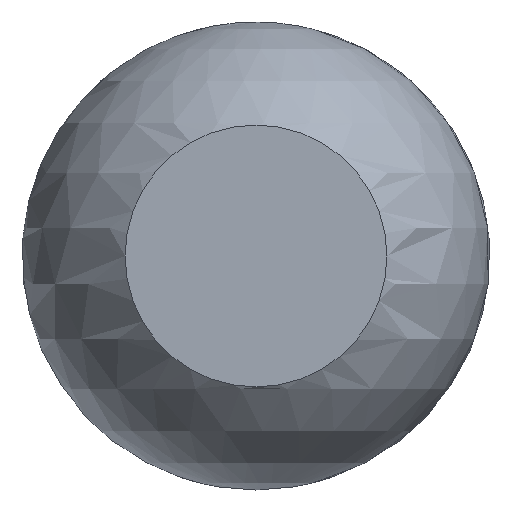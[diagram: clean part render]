
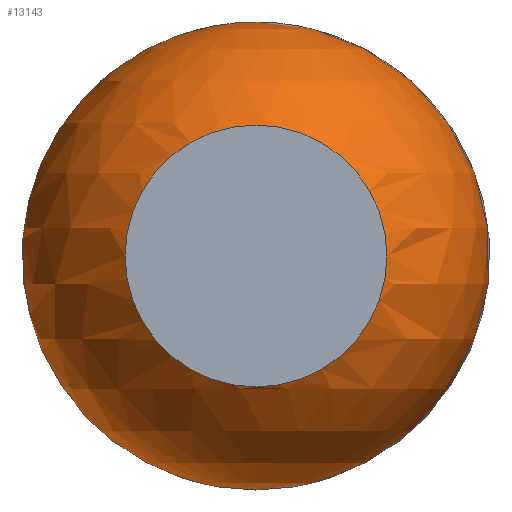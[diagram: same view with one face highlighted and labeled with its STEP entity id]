
A CAD part, left-side view. The second image highlights one B-rep face of the part: STEP entity #13143.
In plain terms, the highlighted spherical face has radius 18.326 mm.
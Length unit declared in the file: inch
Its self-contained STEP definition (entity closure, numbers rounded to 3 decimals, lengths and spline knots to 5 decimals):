
#3122=SPHERICAL_SURFACE('',#13954,0.7215);
#3537=FACE_BOUND('',#4408,.T.);
#3538=FACE_BOUND('',#4409,.T.);
#4408=EDGE_LOOP('',(#9053));
#4409=EDGE_LOOP('',(#9054));
#5271=CIRCLE('',#13952,0.45167);
#5272=CIRCLE('',#13955,0.4038);
#5632=VERTEX_POINT('',#17345);
#5633=VERTEX_POINT('',#17349);
#7005=EDGE_CURVE('',#5632,#5632,#5271,.T.);
#7006=EDGE_CURVE('',#5633,#5633,#5272,.T.);
#9053=ORIENTED_EDGE('',*,*,#7006,.T.);
#9054=ORIENTED_EDGE('',*,*,#7005,.F.);
#13143=ADVANCED_FACE('',(#3537,#3538),#3122,.T.);
#13952=AXIS2_PLACEMENT_3D('',#17346,#14754,#14755);
#13954=AXIS2_PLACEMENT_3D('',#17348,#14758,#14759);
#13955=AXIS2_PLACEMENT_3D('',#17350,#14760,#14761);
#14754=DIRECTION('center_axis',(1.,0.,0.));
#14755=DIRECTION('ref_axis',(0.,0.,-1.));
#14758=DIRECTION('center_axis',(0.,0.,1.));
#14759=DIRECTION('ref_axis',(1.,0.,0.));
#14760=DIRECTION('center_axis',(1.,0.,0.));
#14761=DIRECTION('ref_axis',(0.,0.,-1.));
#17345=CARTESIAN_POINT('',(-92.86011,-81.52687,0.));
#17346=CARTESIAN_POINT('Origin',(-92.86011,-81.97854,0.));
#17348=CARTESIAN_POINT('Origin',(-93.42274,-81.97854,0.));
#17349=CARTESIAN_POINT('',(-94.02066,-81.57473,0.));
#17350=CARTESIAN_POINT('Origin',(-94.02066,-81.97854,0.));
